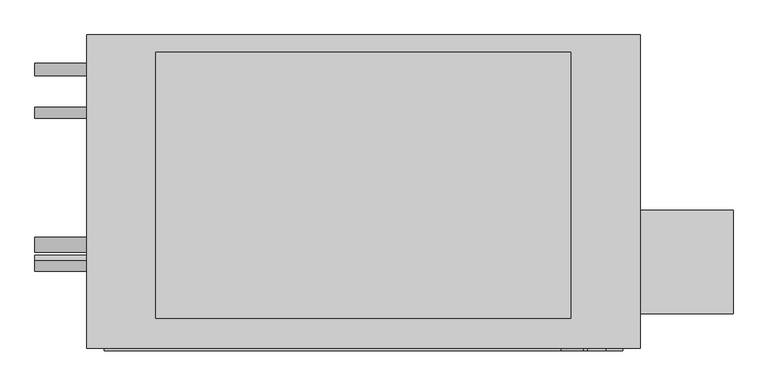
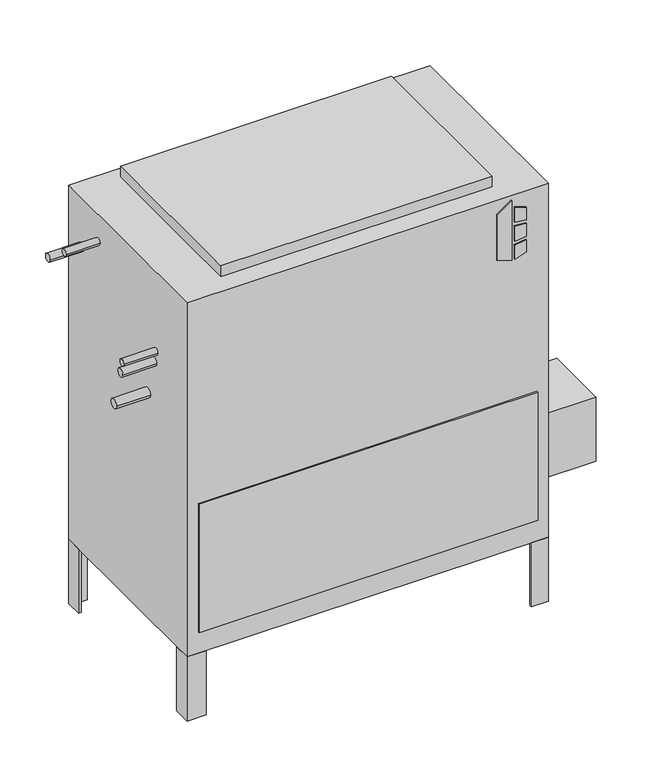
"""IFC4 building model written with IfcOpenShell, lengths in millimetres: proxy geometry, Concealed_High_Capacity_Vertical_Fan_Coil_Unit_-_VEY_-_IEC_-_4-Pipe_LH_2022 : Size 10 - 277v/60Hz/1Ph - 4/2 Coil."""

from ifc_helpers import new_model, si_unit, point, frame, frame_2d, origin, origin_with_axes, place, context, project, spatial, polyline, circle_curve, trimmed, segment, composite_curve, outline, extrude, source, transform, mapped, element, save


def mechanical_equipment_c711a6c3(model_context):
    return source(origin(), model_context, "Body", "SweptSolid", [
        extrude(outline(polyline([(698.9230703, 442.9868862), (688.975, 475.1602728), (831.1459244, 475.1602728), (808.1239183, 442.9868862), (698.9230703, 442.9868862)])), frame((0.0, -471.4875, 0.0), z_axis=(0.0, 1.0, 0.0), x_axis=(0.0, 0.0, 1.0)), (0.0, 0.0, 1.0), 3.175),
        extrude(outline(polyline([(777.9223557, 481.9186058), (774.7199632, 508.0), (803.9488042, 508.0), (812.0132193, 481.9186058), (777.9223557, 481.9186058)])), frame((0.0, -471.4875, 0.0), z_axis=(0.0, 1.0, 0.0), x_axis=(0.0, 0.0, 1.0)), (0.0, 0.0, 1.0), 3.175),
        extrude(outline(polyline([(726.0588288, 508.0), (722.3933279, 481.9186058), (688.975, 481.9186058), (697.6092372, 508.0), (726.0588288, 508.0)])), frame((0.0, -471.4875, 0.0), z_axis=(0.0, 1.0, 0.0), x_axis=(0.0, 0.0, 1.0)), (0.0, 0.0, 1.0), 3.175),
        extrude(outline(polyline([(765.3739903, 508.0), (767.6558166, 481.9186058), (731.7182681, 481.9186058), (734.4595331, 508.0), (765.3739903, 508.0)])), frame((0.0, -471.4875, 0.0), z_axis=(0.0, 1.0, 0.0), x_axis=(0.0, 0.0, 1.0)), (0.0, 0.0, 1.0), 3.175),
        extrude(outline(polyline([(695.325, -265.1125), (695.325, -417.5125), (558.8, -417.5125), (558.8, -265.1125), (695.325, -265.1125)])), frame((0.0, 0.0, 101.6), z_axis=(0.0, 0.0, 1.0), x_axis=(1.0, 0.0, 0.0)), (0.0, 0.0, 1.0), 152.4),
        extrude(outline(polyline([(558.8, -46.0375), (552.45, -46.0375), (552.45, -14.2875), (520.7, -14.2875), (520.7, -7.9375), (558.8, -7.9375), (558.8, -46.0375)])), frame((0.0, 0.0, -152.4), z_axis=(0.0, 0.0, 1.0), x_axis=(1.0, 0.0, 0.0)), (0.0, 0.0, 1.0), 152.4),
        extrude(outline(polyline([(-215.9, -7.9375), (-215.9, -14.2875), (-247.65, -14.2875), (-247.65, -46.0375), (-254.0, -46.0375), (-254.0, -7.9375), (-215.9, -7.9375)])), frame((0.0, 0.0, -152.4), z_axis=(0.0, 0.0, 1.0), x_axis=(1.0, 0.0, 0.0)), (0.0, 0.0, 1.0), 152.4),
        extrude(outline(polyline([(520.7, -468.3125), (520.7, -461.9625), (552.45, -461.9625), (552.45, -430.2125), (558.8, -430.2125), (558.8, -468.3125), (520.7, -468.3125)])), frame((0.0, 0.0, -152.4), z_axis=(0.0, 0.0, 1.0), x_axis=(1.0, 0.0, 0.0)), (0.0, 0.0, 1.0), 152.4),
        extrude(outline(polyline([(-254.0, -428.1199163), (-247.65, -428.1199163), (-247.65, -461.9625), (-210.5318533, -461.9625), (-210.5318533, -468.3125), (-254.0, -468.3125), (-254.0, -428.1199163)])), frame((0.0, 0.0, -152.4), z_axis=(0.0, 0.0, 1.0), x_axis=(1.0, 0.0, 0.0)), (0.0, 0.0, 1.0), 152.4),
        extrude(outline(polyline([(457.2, -33.3375), (457.2, -423.8625), (-152.4, -423.8625), (-152.4, -33.3375), (457.2, -33.3375)])), frame((0.0, 0.0, 841.375), z_axis=(0.0, 0.0, 1.0), x_axis=(1.0, 0.0, 0.0)), (0.0, 0.0, 1.0), 25.4),
        extrude(outline(polyline([(533.4, -471.4875), (-228.6, -471.4875), (-228.6, -468.3125), (533.4, -468.3125), (533.4, -471.4875)])), frame((0.0, 0.0, 50.8), z_axis=(0.0, 0.0, 1.0), x_axis=(1.0, 0.0, 0.0)), (0.0, 0.0, 1.0), 304.8),
        extrude(outline(composite_curve([segment(trimmed(circle_curve(frame_2d((-122.2375, 777.875)), 7.9375), [point((-130.175, 777.875))], [point((-114.3, 777.875))], False, "CARTESIAN"), True, "CONTINUOUS"), segment(trimmed(circle_curve(frame_2d((-122.2375, 777.875)), 7.9375), [point((-114.3, 777.875))], [point((-130.175, 777.875))], False, "CARTESIAN"), True, "CONTINUOUS")], self_intersect=False)), frame((-330.2, 0.0, 0.0), z_axis=(1.0, 0.0, 0.0), x_axis=(0.0, 1.0, 0.0)), (0.0, 0.0, 1.0), 76.2),
        extrude(outline(composite_curve([segment(trimmed(circle_curve(frame_2d((-347.3848135, 653.2230057)), 7.9375), [point((-355.3223135, 653.2230057))], [point((-339.4473135, 653.2230057))], False, "CARTESIAN"), True, "CONTINUOUS"), segment(trimmed(circle_curve(frame_2d((-347.3848135, 653.2230057)), 7.9375), [point((-339.4473135, 653.2230057))], [point((-355.3223135, 653.2230057))], False, "CARTESIAN"), True, "CONTINUOUS")], self_intersect=False)), frame((-330.2, 0.0, 0.0), z_axis=(1.0, 0.0, 0.0), x_axis=(0.0, 1.0, 0.0)), (0.0, 0.0, 1.0), 76.2),
        extrude(outline(composite_curve([segment(trimmed(circle_curve(frame_2d((-58.7375, 727.075)), 9.525), [point((-68.2625, 727.075))], [point((-49.2125, 727.075))], False, "CARTESIAN"), True, "CONTINUOUS"), segment(trimmed(circle_curve(frame_2d((-58.7375, 727.075)), 9.525), [point((-49.2125, 727.075))], [point((-68.2625, 727.075))], False, "CARTESIAN"), True, "CONTINUOUS")], self_intersect=False)), frame((-330.2, 0.0, 0.0), z_axis=(1.0, 0.0, 0.0), x_axis=(0.0, 1.0, 0.0)), (0.0, 0.0, 1.0), 76.2),
        extrude(outline(composite_curve([segment(trimmed(circle_curve(frame_2d((-341.3125, 625.475)), 9.525), [point((-350.8375, 625.475))], [point((-331.7875, 625.475))], False, "CARTESIAN"), True, "CONTINUOUS"), segment(trimmed(circle_curve(frame_2d((-341.3125, 625.475)), 9.525), [point((-331.7875, 625.475))], [point((-350.8375, 625.475))], False, "CARTESIAN"), True, "CONTINUOUS")], self_intersect=False)), frame((-330.2, 0.0, 0.0), z_axis=(1.0, 0.0, 0.0), x_axis=(0.0, 1.0, 0.0)), (0.0, 0.0, 1.0), 76.2),
        extrude(outline(composite_curve([segment(trimmed(circle_curve(frame_2d((-315.9125, 536.575)), 11.1125), [point((-327.025, 536.575))], [point((-304.8, 536.575))], False, "CARTESIAN"), True, "CONTINUOUS"), segment(trimmed(circle_curve(frame_2d((-315.9125, 536.575)), 11.1125), [point((-304.8, 536.575))], [point((-327.025, 536.575))], False, "CARTESIAN"), True, "CONTINUOUS")], self_intersect=False)), frame((-330.2, 0.0, 0.0), z_axis=(1.0, 0.0, 0.0), x_axis=(0.0, 1.0, 0.0)), (0.0, 0.0, 1.0), 76.2),
        extrude(outline(polyline([(558.8, -7.9375), (558.8, -468.3125), (-254.0, -468.3125), (-254.0, -7.9375), (558.8, -7.9375)])), origin_with_axes(), (0.0, 0.0, 1.0), 841.375),
    ])


if __name__ == "__main__":
    model = new_model("IFC4")
    model_context = context("Model", 3, world=origin())
    ifc_project = project(units=[si_unit("LENGTHUNIT", "METRE", prefix="MILLI")], contexts=[model_context])
    site = spatial("IfcSite", under=ifc_project)
    building = spatial("IfcBuilding", under=site)
    placement = place(None, origin())
    mechanical_equipment_shape = mechanical_equipment_c711a6c3(model_context)
    element("IfcBuildingElementProxy", 1, Name="Concealed_High_Capacity_Vertical_Fan_Coil_Unit_-_VEY_-_IEC_-_4-Pipe_LH_2022 : Size 10 - 277v/60Hz/1Ph - 4/2 Coil", ObjectType="Concealed_High_Capacity_Vertical_Fan_Coil_Unit_-_VEY_-_IEC_-_4-Pipe_LH_2022 : Size 10 - 277v/60Hz/1Ph - 4/2 Coil", at=placement, inside=building, context=model_context, shape_type="MappedRepresentation", body=[
        mapped(mechanical_equipment_shape, transform((0.0, 0.0, 0.0), x_axis=(1.0, 0.0, 0.0), y_axis=(0.0, 1.0, 0.0), z_axis=(0.0, 0.0, 1.0))),
    ])
    save(model, "model.ifc")
